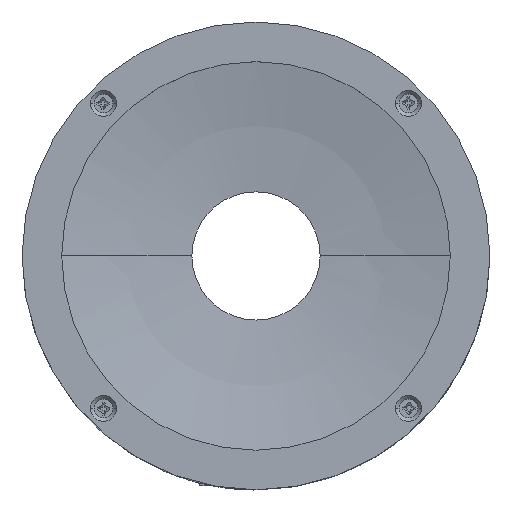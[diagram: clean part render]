
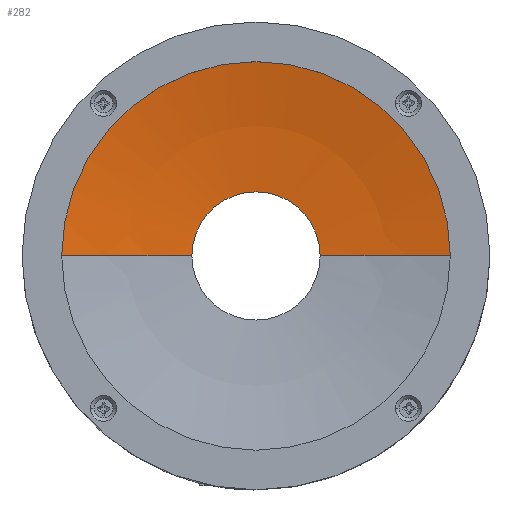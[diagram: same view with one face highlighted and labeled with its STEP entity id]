
A CAD part, top view. The second image highlights one B-rep face of the part: STEP entity #282.
In plain terms, the highlighted spherical face has radius 230.14 mm.
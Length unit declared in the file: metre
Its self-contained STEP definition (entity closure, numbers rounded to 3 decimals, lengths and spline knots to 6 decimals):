
#282=ADVANCED_FACE('7:11497',(#808),#809,.F.);
#808=FACE_OUTER_BOUND('',#1602,.T.);
#809=SPHERICAL_SURFACE('',#1603,0.23014);
#1602=EDGE_LOOP('',(#2468,#2469,#2470,#2471,#2472));
#1603=AXIS2_PLACEMENT_3D('',#2473,#2474,#2475);
#2468=ORIENTED_EDGE('',*,*,#4977,.F.);
#2469=ORIENTED_EDGE('',*,*,#4978,.F.);
#2470=ORIENTED_EDGE('',*,*,#4979,.F.);
#2471=ORIENTED_EDGE('',*,*,#4980,.F.);
#2472=ORIENTED_EDGE('',*,*,#4981,.F.);
#2473=CARTESIAN_POINT('',(0.0,0.0,0.23456));
#2474=DIRECTION('',(0.0,0.0,1.0));
#2475=DIRECTION('',(1.0,0.0,0.0));
#4977=EDGE_CURVE('',#6496,#6497,#6498,.T.);
#4978=EDGE_CURVE('7:12427',#6499,#6496,#6500,.T.);
#4979=EDGE_CURVE('',#6501,#6499,#6502,.T.);
#4980=EDGE_CURVE('7:37198',#6503,#6501,#6504,.T.);
#4981=EDGE_CURVE('7:37198',#6497,#6503,#6505,.T.);
#6496=VERTEX_POINT('',#8814);
#6497=VERTEX_POINT('',#8815);
#6498=CIRCLE('',#8816,0.23014);
#6499=VERTEX_POINT('',#8817);
#6500=CIRCLE('',#8818,0.0165);
#6501=VERTEX_POINT('',#8819);
#6502=CIRCLE('',#8820,0.23014);
#6503=VERTEX_POINT('',#8821);
#6504=CIRCLE('',#8822,0.050147);
#6505=CIRCLE('',#8823,0.050147);
#8814=CARTESIAN_POINT('',(-0.0165,0.,0.005012));
#8815=CARTESIAN_POINT('',(-0.050147,0.,0.00995));
#8816=AXIS2_PLACEMENT_3D('',#12965,#12966,#12967);
#8817=CARTESIAN_POINT('',(0.0165,0.,0.005012));
#8818=AXIS2_PLACEMENT_3D('',#12968,#12969,#12970);
#8819=CARTESIAN_POINT('',(0.050147,0.,0.00995));
#8820=AXIS2_PLACEMENT_3D('',#12971,#12972,#12973);
#8821=CARTESIAN_POINT('',(0.,0.050147,0.00995));
#8822=AXIS2_PLACEMENT_3D('',#12974,#12975,#12976);
#8823=AXIS2_PLACEMENT_3D('',#12977,#12978,#12979);
#12965=CARTESIAN_POINT('',(0.0,0.0,0.23456));
#12966=DIRECTION('',(0.,1.0,0.0));
#12967=DIRECTION('',(-0.0,0.0,1.0));
#12968=CARTESIAN_POINT('',(0.0,0.0,0.005012));
#12969=DIRECTION('',(0.0,0.0,1.0));
#12970=DIRECTION('',(-1.0,0.0,0.0));
#12971=CARTESIAN_POINT('',(0.0,0.0,0.23456));
#12972=DIRECTION('',(0.,1.0,0.0));
#12973=DIRECTION('',(-0.0,0.0,1.0));
#12974=CARTESIAN_POINT('',(0.0,0.0,0.00995));
#12975=DIRECTION('',(-0.0,-0.0,-1.0));
#12976=DIRECTION('',(0.0,-1.0,0.0));
#12977=CARTESIAN_POINT('',(0.0,0.0,0.00995));
#12978=DIRECTION('',(-0.0,-0.0,-1.0));
#12979=DIRECTION('',(0.0,-1.0,0.0));
